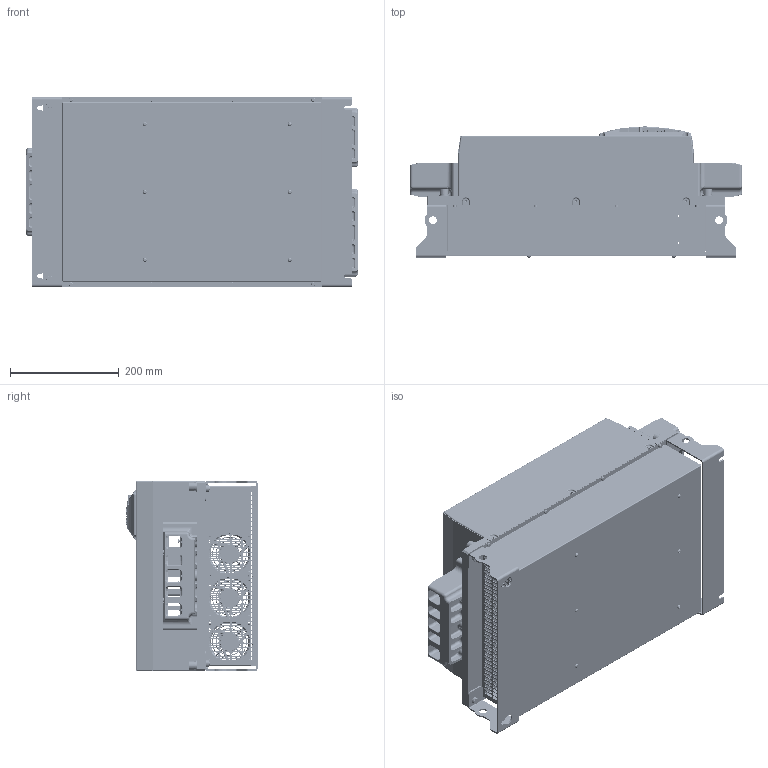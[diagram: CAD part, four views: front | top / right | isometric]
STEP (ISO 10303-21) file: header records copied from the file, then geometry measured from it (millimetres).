
FILE_DESCRIPTION((''),'2;1');
FILE_NAME('61615N-0_ASM','2022-03-02T',('lichensong'),(''),'PRO/ENGINEER BY PARAMETRIC TECHNOLOGY CORPORATION, 2010430','PRO/ENGINEER BY PARAMETRIC TECHNOLOGY CORPORATION, 2010430','');
FILE_SCHEMA(('AUTOMOTIVE_DESIGN_CC2 { 1 2 10303 214 -1 1 5 2 }'));
Products named in the file (50): 61622N-0; 05467-0; 05468-0; 61440N-0_ASM; 60667N-0; CONNETTORE-CAN; CONNETTORE-CAN1; CONN_ENC; MTMM_120-03-S-D-160_ASM; MCD_0_5-12-G1-2_5-444420; 1894901_ASM; MTMM_110-03-S-D-160_ASM; MTMM_106-03-S-D-160_ASM; LIGHT-GUIDE; INTERNETCO; 50544N-0_ASM; 50308N-0; 50309N-0; 61073N-0_ASM; 05462-0_ASM; GB-T95_10; GB_T93_10; M10X20_GBT70-1; 61616N-0; 61452N-1; 61414N-1_ASM; 61452N-2; M5X12_GBT70-1; M5X10_GB-T70-3; M6X12_GBT70-1; 12789; 61617N-1; PEM_S_M8-2; 61617N-0_ASM; M8X16_GBT70-1; 61618N-1; 61618N-0_ASM; 61619N-0; PEM_S_M4; 61620N-0_ASM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
Assembly tree (155 placements, depth 6):
  61615N-0_ASM
    61622N-0
    05467-0  x2
    05468-0  x2
    05462-0_ASM
      61440N-0_ASM
      61073N-0_ASM
        60667N-0
        50544N-0_ASM
          CONNETTORE-CAN
          CONNETTORE-CAN1
          CONN_ENC
          MTMM_120-03-S-D-160_ASM
          1894901_ASM
            MCD_0_5-12-G1-2_5-444420
          MTMM_110-03-S-D-160_ASM
          MTMM_106-03-S-D-160_ASM
          LIGHT-GUIDE  x8
          INTERNETCO  x2
        50308N-0
        50309N-0
    GB-T95_10  x4
    GB_T93_10  x4
    M10X20_GBT70-1  x4
    61616N-0
    61414N-1_ASM
      61452N-1
    61452N-2
    M5X12_GBT70-1  x12
    M5X10_GB-T70-3  x6
    M6X12_GBT70-1  x9
    12789  x9
    61617N-0_ASM
      61617N-1
      PEM_S_M8-2  x2
    M8X16_GBT70-1  x4
    61618N-0_ASM
      61618N-1
      PEM_S_M8-2  x2
    61619N-0
    FAN_ASM_ASM
      61620N-0_ASM
        PEM_S_M4  x16
      SILICONE_WASHER  x12
      8214JH3  x3
      FAN_COVER  x3
    61621N-0_ASM
      PEM_S_M4  x6
    M4X8_GBT70-1  x8
    M4X8_GBT70-2  x6
    61682N-0_ASM  x2
    61682N-1_ASM
Bounding box: 612 x 242.21 x 350 mm (x, y, z)
Volume: 6787574.5 mm3; surface area: 5099052.3 mm2
Topology: 159 solids, 232 shells, 9849 faces, 24455 edges, 15354 vertices
Faces by surface type: plane 5018, cylinder 3270, torus 700, cone 369, bspline 336, sphere 156
Entity records: 272768 total; most frequent: CARTESIAN_POINT 45997, DIRECTION 35866, ORIENTED_EDGE 34310, PRESENTATION_STYLE_ASSIGNMENT 17597, EDGE_CURVE 17301, STYLED_ITEM 17175, CURVE_STYLE 17063, AXIS2_PLACEMENT_3D 12339
